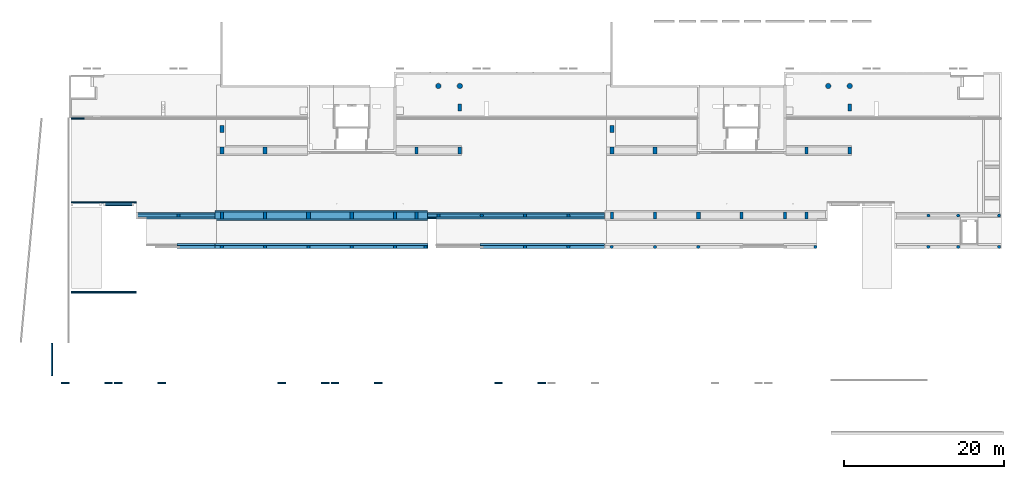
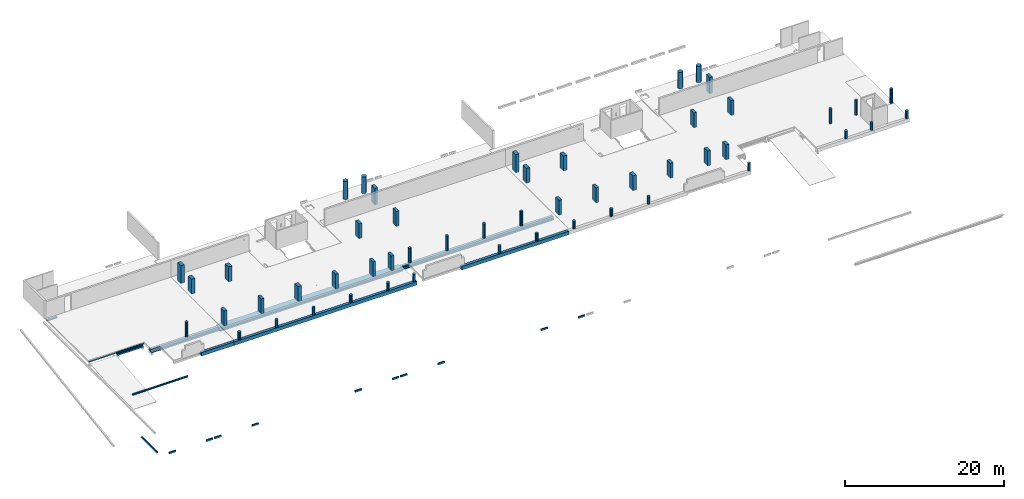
# One storey, part 1 of 10: 51 columns, 22 beams.
"""IFC2X3 building model written with IfcOpenShell, lengths in millimetres."""

from ifc_helpers import new_model, entity, si_unit, converted_unit, derived_unit, direction, frame, frame_2d, origin, origin_2d_with_axis, place, context, subcontext, project, spatial, polyline, circle_curve, parameter, trimmed, segment, composite_curve, rectangle, circle, outline, extrude, source, transform, mapped, material, type_object, type_shapes, element, save


model = new_model("IFC2X3")

# Units and contexts
model_context = context("Model", 3, precision=0.01, world=origin(), true_north=direction((6.12303176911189e-17, 1.0)))
body_context = subcontext(model_context, "Body", "Model", "MODEL_VIEW")
ifc_project = project(units=[si_unit("LENGTHUNIT", "METRE", prefix="MILLI"), si_unit("AREAUNIT", "SQUARE_METRE"), si_unit("VOLUMEUNIT", "CUBIC_METRE"), converted_unit("PLANEANGLEUNIT", "DEGREE", entity("IfcRatioMeasure", 0.0174532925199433), si_unit("PLANEANGLEUNIT", "RADIAN"), dimensions=[0, 0, 0, 0, 0, 0, 0]), si_unit("MASSUNIT", "GRAM", prefix="KILO"), derived_unit("MASSDENSITYUNIT", [(si_unit("MASSUNIT", "GRAM", prefix="KILO"), 1), (si_unit("LENGTHUNIT", "METRE"), -3)]), si_unit("TIMEUNIT", "SECOND"), si_unit("FREQUENCYUNIT", "HERTZ"), si_unit("THERMODYNAMICTEMPERATUREUNIT", "DEGREE_CELSIUS"), derived_unit("THERMALTRANSMITTANCEUNIT", [(si_unit("MASSUNIT", "GRAM", prefix="KILO"), 1), (si_unit("THERMODYNAMICTEMPERATUREUNIT", "KELVIN"), -1), (si_unit("TIMEUNIT", "SECOND"), -3)]), derived_unit("VOLUMETRICFLOWRATEUNIT", [(si_unit("LENGTHUNIT", "METRE"), 3), (si_unit("TIMEUNIT", "SECOND"), -1)]), si_unit("ELECTRICCURRENTUNIT", "AMPERE"), si_unit("ELECTRICVOLTAGEUNIT", "VOLT"), si_unit("POWERUNIT", "WATT"), si_unit("FORCEUNIT", "NEWTON", prefix="KILO"), si_unit("ILLUMINANCEUNIT", "LUX"), si_unit("LUMINOUSFLUXUNIT", "LUMEN"), si_unit("LUMINOUSINTENSITYUNIT", "CANDELA"), derived_unit("USERDEFINED", [(si_unit("MASSUNIT", "GRAM", prefix="KILO"), -1), (si_unit("LENGTHUNIT", "METRE"), -2), (si_unit("TIMEUNIT", "SECOND"), 3), (si_unit("LUMINOUSFLUXUNIT", "LUMEN"), 1)]), derived_unit("LINEARVELOCITYUNIT", [(si_unit("LENGTHUNIT", "METRE"), 1), (si_unit("TIMEUNIT", "SECOND"), -1)]), si_unit("PRESSUREUNIT", "PASCAL"), derived_unit("USERDEFINED", [(si_unit("LENGTHUNIT", "METRE"), -2), (si_unit("MASSUNIT", "GRAM", prefix="KILO"), 1), (si_unit("TIMEUNIT", "SECOND"), -2)])], contexts=[model_context])

# Site, building, storey
site_placement = place(None, origin())
site = spatial("IfcSite", under=ifc_project, at=site_placement, Name="Default", CompositionType="ELEMENT")
building_placement = place(site_placement, origin())
building = spatial("IfcBuilding", under=site, at=building_placement, Name="niet gebruiken", CompositionType="ELEMENT")
storey_placement = place(building_placement, frame((0.0, 0.0, 6610.0)))
storey = spatial("IfcBuildingStorey", under=building, at=storey_placement, Name="01c derde tussenverdieping", CompositionType="ELEMENT", Elevation=6610.0)

# Columns
ifc_material_1 = material(Name="NLRS_f2_beton prefab")
column_type_1 = type_object("IfcColumnType", Name="ø400", PredefinedType="COLUMN", material=ifc_material_1)
shared_shape_1 = source(origin(), body_context, "Body", "SweptSolid", [
    extrude(circle(Radius=200.0, at=frame_2d((1.69197988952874e-14, -3.02923644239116e-13), x_axis=(1.0, 0.0))), frame((0.0, 0.0, 6640.0)), (0.0, 0.0, 1.0), 1180.0),
])
type_shapes(column_type_1, [shared_shape_1])
for number, where in (
    (1, (27000.0, 24976.0, -6610.0)),
    (2, (32400.0, 24976.0, -6610.0)),
    (3, (37800.0, 24976.0, -6610.0)),
    (4, (43200.0, 24976.0, -6610.0)),
    (5, (48600.0, 24976.0, -6610.0)),
    (6, (52390.0, 24976.0, -6610.0)),
    (7, (64800.0, 24976.0, -6610.0)),
    (8, (70200.0, 24976.0, -6610.0)),
    (9, (75600.0, 24976.0, -6610.0)),
    (10, (81000.0, 24976.0, -6610.0)),
    (11, (86400.0, 24976.0, -6610.0)),
    (12, (100990.0, 24976.0, -6610.0)),
    (13, (118800.0, 24976.0, -6610.0)),
    (14, (115075.000813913, 24976.0, -6610.0)),
):
    element("IfcColumn", number, at=place(storey_placement, frame(where)), inside=storey, type_object=column_type_1, material=ifc_material_1, Name="NLRS_28. kolom rond_gen:ø400", ObjectType="ø400", context=body_context, shape_type="MappedRepresentation", body=[
        mapped(shared_shape_1, transform((0.0, 0.0, 0.0), scale=1.0)),
    ])
column_type_2 = type_object("IfcColumnType", Name="400x850", PredefinedType="COLUMN", material=ifc_material_1)
shared_shape_2 = source(origin(), body_context, "Body", "SweptSolid", [
    extrude(rectangle(XDim=850.0, YDim=400.0, at=origin_2d_with_axis()), frame((0.0, 0.0, 6560.0), z_axis=(0.0, 0.0, 1.0), x_axis=(0.0, -1.0, 0.0)), (0.0, 0.0, 1.0), 2299.99999999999),
])
type_shapes(column_type_2, [shared_shape_2])
for number, where, name in (
    (15, (32400.0, 28881.0, -6610.0), "NLRS_28. kolom vierkant_gen:400x850"),
    (16, (27025.0, 28881.0, -6610.0), "NLRS_28. kolom vierkant_gen:400x850"),
    (17, (43200.0, 28881.0, -6610.0), "NLRS_28. kolom vierkant_gen:400x850"),
    (18, (48600.0, 28881.0, -6610.0), "NLRS_28. kolom vierkant_gen:400x850"),
    (19, (51275.0, 28881.0, -6610.0), "NLRS_28. kolom vierkant_gen:400x850"),
    (20, (75625.0, 28881.0, -6610.0), "NLRS_28. kolom vierkant_gen:400x850"),
    (21, (81000.0, 28881.0, -6610.0), "NLRS_28. kolom vierkant_gen:400x850"),
    (22, (91800.0, 28881.0, -6610.0), "NLRS_28. kolom vierkant_gen:400x850"),
    (23, (97200.0, 28881.0, -6610.0), "NLRS_28. kolom vierkant_gen:400x850"),
    (24, (99875.0, 28881.0, -6610.0), "NLRS_28. kolom vierkant_gen:400x850"),
):
    element("IfcColumn", number, at=place(storey_placement, frame(where)), inside=storey, type_object=column_type_2, material=ifc_material_1, Name=name, ObjectType="400x850", context=body_context, shape_type="MappedRepresentation", body=[
        mapped(shared_shape_2, transform((0.0, 0.0, 0.0), scale=1.0)),
    ])
for number, where, z_axis, x_axis, name in (
    (25, (51275.0, 36981.0, -6610.0), (0.0, 0.0, 1.0), (-1.0, 0.0, 0.0), "NLRS_28. kolom vierkant_gen:400x850"),
    (26, (56675.0, 36981.0, -6610.0), (0.0, 0.0, 1.0), (-1.0, 0.0, 0.0), "NLRS_28. kolom vierkant_gen:400x850"),
    (27, (99875.0, 36981.0, -6610.0), (0.0, 0.0, 1.0), (-1.0, 0.0, 0.0), "NLRS_28. kolom vierkant_gen:400x850"),
    (28, (105275.0, 36981.0, -6610.0), (0.0, 0.0, 1.0), (-1.0, 0.0, 0.0), "NLRS_28. kolom vierkant_gen:400x850"),
):
    element("IfcColumn", number, at=place(storey_placement, frame(where, z_axis=z_axis, x_axis=x_axis)), inside=storey, type_object=column_type_2, material=ifc_material_1, Name=name, ObjectType="400x850", context=body_context, shape_type="MappedRepresentation", body=[
        mapped(shared_shape_2, transform((0.0, 0.0, 0.0), scale=1.0)),
    ])
column_type_3 = type_object("IfcColumnType", Name="500x850", PredefinedType="COLUMN", material=ifc_material_1)
shared_shape_3 = source(origin(), body_context, "Body", "SweptSolid", [
    extrude(rectangle(XDim=850.0, YDim=500.0, at=origin_2d_with_axis()), frame((0.0, 0.0, 6560.0), z_axis=(0.0, 0.0, 1.0), x_axis=(0.0, -1.0, 0.0)), (0.0, 0.0, 1.0), 2299.99999999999),
])
type_shapes(column_type_3, [shared_shape_3])
for number, where, name in (
    (29, (37800.0, 28881.0, -6610.0), "NLRS_28. kolom vierkant_gen:500x850"),
    (30, (86400.0, 28881.0, -6610.0), "NLRS_28. kolom vierkant_gen:500x850"),
):
    element("IfcColumn", number, at=place(storey_placement, frame(where)), inside=storey, type_object=column_type_3, material=ifc_material_1, Name=name, ObjectType="500x850", context=body_context, shape_type="MappedRepresentation", body=[
        mapped(shared_shape_3, transform((0.0, 0.0, 0.0), scale=1.0)),
    ])
for number, where, z_axis, x_axis, name in (
    (31, (27025.0, 36981.0, -6610.0), (0.0, 0.0, 1.0), (-1.0, 0.0, 0.0), "NLRS_28. kolom vierkant_gen:500x850"),
    (32, (32400.0, 36981.0, -6610.0), (0.0, 0.0, 1.0), (-1.0, 0.0, 0.0), "NLRS_28. kolom vierkant_gen:500x850"),
    (33, (75625.0, 36981.0, -6610.0), (0.0, 0.0, 1.0), (-1.0, 0.0, 0.0), "NLRS_28. kolom vierkant_gen:500x850"),
    (34, (81000.0, 36981.0, -6610.0), (0.0, 0.0, 1.0), (-1.0, 0.0, 0.0), "NLRS_28. kolom vierkant_gen:500x850"),
):
    element("IfcColumn", number, at=place(storey_placement, frame(where, z_axis=z_axis, x_axis=x_axis)), inside=storey, type_object=column_type_3, material=ifc_material_1, Name=name, ObjectType="500x850", context=body_context, shape_type="MappedRepresentation", body=[
        mapped(shared_shape_3, transform((0.0, 0.0, 0.0), scale=1.0)),
    ])
column_type_4 = type_object("IfcColumnType", Name="ø400", PredefinedType="COLUMN", material=ifc_material_1)
shared_shape_4 = source(origin(), body_context, "Body", "SweptSolid", [
    extrude(circle(Radius=200.0, at=frame_2d((1.69197988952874e-14, -3.02923644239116e-13), x_axis=(1.0, 0.0))), frame((0.0, 0.0, 6560.0)), (0.0, 0.0, 1.0), 2299.99999999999),
])
type_shapes(column_type_4, [shared_shape_4])
for number, where in (
    (35, (21600.0, 28881.0, -6610.0)),
    (36, (54000.0, 28881.0, -6610.0)),
    (37, (59400.0, 28881.0, -6610.0)),
    (38, (64800.0, 28881.0, -6610.0)),
    (39, (70200.0, 28881.0, -6610.0)),
):
    element("IfcColumn", number, at=place(storey_placement, frame(where)), inside=storey, type_object=column_type_4, material=ifc_material_1, Name="NLRS_28. kolom rond_gen:ø400", ObjectType="ø400", context=body_context, shape_type="MappedRepresentation", body=[
        mapped(shared_shape_4, transform((0.0, 0.0, 0.0), scale=1.0)),
    ])
column_type_5 = type_object("IfcColumnType", Name="ø400", PredefinedType="COLUMN", material=ifc_material_1)
shared_shape_5 = source(origin(), body_context, "Body", "SweptSolid", [
    extrude(circle(Radius=200.000000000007, at=frame_2d((-3.75232390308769e-25, -8.66293703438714e-12), x_axis=(1.0, 0.0))), frame((118800.0, 28881.0, 6560.0)), (0.0, 0.0, 1.0), 2299.99999999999),
])
type_shapes(column_type_5, [shared_shape_5])
column_1_placement = place(storey_placement, frame((0.0, 0.0, -6610.0)))
element("IfcColumn", 40, at=column_1_placement, inside=storey, type_object=column_type_5, material=ifc_material_1, Name="NLRS_28. kolom rond_gen:ø400", ObjectType="ø400", context=body_context, shape_type="MappedRepresentation", body=[
    mapped(shared_shape_5, transform((0.0, 0.0, 0.0), scale=1.0)),
])
column_type_6 = type_object("IfcColumnType", Name="ø400", PredefinedType="COLUMN", material=ifc_material_1)
shared_shape_6 = source(origin(), body_context, "Body", "SweptSolid", [
    extrude(circle(Radius=200.000000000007, at=frame_2d((-3.75232390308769e-25, -8.66293703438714e-12), x_axis=(1.0, 0.0))), frame((115075.0, 28881.0, 6560.0)), (0.0, 0.0, 1.0), 2299.99999999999),
])
type_shapes(column_type_6, [shared_shape_6])
column_2_placement = place(storey_placement, frame((0.0, 0.0, -6610.0)))
element("IfcColumn", 41, at=column_2_placement, inside=storey, type_object=column_type_6, material=ifc_material_1, Name="NLRS_28. kolom rond_gen:ø400", ObjectType="ø400", context=body_context, shape_type="MappedRepresentation", body=[
    mapped(shared_shape_6, transform((0.0, 0.0, 0.0), scale=1.0)),
])
column_type_7 = type_object("IfcColumnType", Name="ø400", PredefinedType="COLUMN", material=ifc_material_1)
shared_shape_7 = source(origin(), body_context, "Body", "SweptSolid", [
    extrude(circle(Radius=200.000000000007, at=frame_2d((-3.75232390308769e-25, -8.66293703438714e-12), x_axis=(1.0, 0.0))), frame((123900.0, 28881.0, 6560.0)), (0.0, 0.0, 1.0), 2299.99999999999),
])
type_shapes(column_type_7, [shared_shape_7])
column_3_placement = place(storey_placement, frame((0.0, 0.0, -6610.0)))
element("IfcColumn", 42, at=column_3_placement, inside=storey, type_object=column_type_7, material=ifc_material_1, Name="NLRS_28. kolom rond_gen:ø400", ObjectType="ø400", context=body_context, shape_type="MappedRepresentation", body=[
    mapped(shared_shape_7, transform((0.0, 0.0, 0.0), scale=1.0)),
])
column_type_8 = type_object("IfcColumnType", Name="500x850", PredefinedType="COLUMN", material=ifc_material_1)
shared_shape_8 = source(origin(), body_context, "Body", "SweptSolid", [
    extrude(rectangle(XDim=850.0, YDim=500.0, at=origin_2d_with_axis()), frame((0.0, 0.0, 6560.0), z_axis=(0.0, 0.0, 1.0), x_axis=(0.0, -1.0, 0.0)), (0.0, 0.0, 1.0), 2780.0),
])
type_shapes(column_type_8, [shared_shape_8])
for number, where, z_axis, x_axis, name in (
    (43, (27025.0, 39656.0, -6610.0), (0.0, 0.0, 1.0), (-1.0, 0.0, 0.0), "NLRS_28. kolom vierkant_gen:500x850"),
    (44, (75625.0, 39656.0, -6610.0), (0.0, 0.0, 1.0), (-1.0, 0.0, 0.0), "NLRS_28. kolom vierkant_gen:500x850"),
):
    element("IfcColumn", number, at=place(storey_placement, frame(where, z_axis=z_axis, x_axis=x_axis)), inside=storey, type_object=column_type_8, material=ifc_material_1, Name=name, ObjectType="500x850", context=body_context, shape_type="MappedRepresentation", body=[
        mapped(shared_shape_8, transform((0.0, 0.0, 0.0), scale=1.0)),
    ])
column_type_9 = type_object("IfcColumnType", Name="400x850", PredefinedType="COLUMN", material=ifc_material_1)
shared_shape_9 = source(origin(), body_context, "Body", "SweptSolid", [
    extrude(rectangle(XDim=850.0, YDim=400.0, at=origin_2d_with_axis()), frame((0.0, 0.0, 6640.0), z_axis=(0.0, 0.0, 1.0), x_axis=(0.0, -1.0, 0.0)), (0.0, 0.0, 1.0), 2520.0),
])
type_shapes(column_type_9, [shared_shape_9])
for number, where, z_axis, x_axis, name in (
    (45, (105275.0, 42331.0, -6610.0), (0.0, 0.0, 1.0), (-1.0, 0.0, 0.0), "NLRS_28. kolom vierkant_gen:400x850"),
    (46, (56675.0, 42331.0, -6610.0), (0.0, 0.0, 1.0), (-1.0, 0.0, 0.0), "NLRS_28. kolom vierkant_gen:400x850"),
):
    element("IfcColumn", number, at=place(storey_placement, frame(where, z_axis=z_axis, x_axis=x_axis)), inside=storey, type_object=column_type_9, material=ifc_material_1, Name=name, ObjectType="400x850", context=body_context, shape_type="MappedRepresentation", body=[
        mapped(shared_shape_9, transform((0.0, 0.0, 0.0), scale=1.0)),
    ])
column_type_10 = type_object("IfcColumnType", Name="ø650", PredefinedType="COLUMN", material=ifc_material_1)
shared_shape_10 = source(origin(), body_context, "Body", "SweptSolid", [
    extrude(circle(Radius=325.0, at=frame_2d((3.38395977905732e-14, 4.90135947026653e-13), x_axis=(1.0, 0.0))), frame((0.0, 0.0, 6640.0), z_axis=(0.0, 0.0, 1.0), x_axis=(-1.0, 0.0, 0.0)), (0.0, 0.0, 1.0), 2520.0),
])
type_shapes(column_type_10, [shared_shape_10])
for number, where in (
    (47, (105275.0, 45031.0, -6610.0)),
    (48, (102600.0, 45031.0, -6610.0)),
    (49, (56675.0, 45031.0, -6610.0)),
):
    element("IfcColumn", number, at=place(storey_placement, frame(where)), inside=storey, type_object=column_type_10, material=ifc_material_1, Name="NLRS_28. kolom rond_gen:ø650", ObjectType="ø650", context=body_context, shape_type="MappedRepresentation", body=[
        mapped(shared_shape_10, transform((0.0, 0.0, 0.0), scale=1.0)),
    ])
column_type_11 = type_object("IfcColumnType", Name="ø650", PredefinedType="COLUMN", material=ifc_material_1)
shared_shape_11 = source(origin(), body_context, "Body", "SweptSolid", [
    extrude(circle(Radius=325.0, at=frame_2d((3.38395977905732e-14, 4.90135947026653e-13), x_axis=(1.0, 0.0))), frame((0.0, 0.0, 6630.0), z_axis=(0.0, 0.0, 1.0), x_axis=(-1.0, 0.0, 0.0)), (0.0, 0.0, 1.0), 2780.0),
])
type_shapes(column_type_11, [shared_shape_11])
column_4_placement = place(storey_placement, frame((54000.0, 45031.0, -6610.0)))
element("IfcColumn", 50, at=column_4_placement, inside=storey, type_object=column_type_11, material=ifc_material_1, Name="NLRS_28. kolom rond_gen:ø650", ObjectType="ø650", context=body_context, shape_type="MappedRepresentation", body=[
    mapped(shared_shape_11, transform((0.0, 0.0, 0.0), scale=1.0)),
])
column_type_12 = type_object("IfcColumnType", Name="ø400", PredefinedType="COLUMN", material=ifc_material_1)
shared_shape_12 = source(origin(), body_context, "Body", "SweptSolid", [
    extrude(circle(Radius=200.000000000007, at=frame_2d((-3.75232390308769e-25, -8.66293703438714e-12), x_axis=(1.0, 0.0))), frame((123900.0, 24976.0, 6640.0)), (0.0, 0.0, 1.0), 1180.0),
])
type_shapes(column_type_12, [shared_shape_12])
column_5_placement = place(storey_placement, frame((0.0, 0.0, -6610.0)))
element("IfcColumn", 51, at=column_5_placement, inside=storey, type_object=column_type_12, material=ifc_material_1, Name="NLRS_28. kolom rond_gen:ø400", ObjectType="ø400", context=body_context, shape_type="MappedRepresentation", body=[
    mapped(shared_shape_12, transform((0.0, 0.0, 0.0), scale=1.0)),
])

# Beams
beam_type_1 = type_object("IfcBeamType", Name="NLRS_28.11_SF_WPB_prefabbeton balk enkele sponning_gen:600x540/200x200", PredefinedType="BEAM")
beam_1_placement = place(storey_placement, frame((26150.0, 25076.0, 10.0)))
element("IfcBeam", 52, at=beam_1_placement, inside=storey, type_object=beam_type_1, material=ifc_material_1, Name="NLRS_28.11_SF_WPB_prefabbeton balk enkele sponning_gen:600x540/200x200", ObjectType="NLRS_28.11_SF_WPB_prefabbeton balk enkele sponning_gen:600x540/200x200", context=body_context, shape_type="SweptSolid", body=[
    extrude(outline(polyline([(-293.333333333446, -333.333333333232), (246.666666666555, -333.333333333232), (246.666666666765, 266.666666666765), (46.6666666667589, 266.666666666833), (46.6666666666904, 66.666666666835), (-293.333333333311, 66.6666666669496), (-293.333333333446, -333.333333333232)])), frame((0.0, 33.3333333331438, -293.333333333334), z_axis=(1.0, 0.0, 0.0), x_axis=(0.0, 0.0, -1.0)), (0.0, 0.0, 1.0), 26549.9999999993),
])
beam_2_placement = place(storey_placement, frame((59200.0, 25076.0, 10.0)))
element("IfcBeam", 53, at=beam_2_placement, inside=storey, type_object=beam_type_1, material=ifc_material_1, Name="NLRS_28.11_SF_WPB_prefabbeton balk enkele sponning_gen:600x540/200x200", ObjectType="NLRS_28.11_SF_WPB_prefabbeton balk enkele sponning_gen:600x540/200x200", context=body_context, shape_type="SweptSolid", body=[
    extrude(outline(polyline([(-293.333333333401, -333.333333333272), (246.6666666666, -333.333333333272), (246.666666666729, 266.66666666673), (46.6666666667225, 266.666666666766), (46.6666666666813, 66.6666666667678), (-293.33333333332, 66.666666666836), (-293.333333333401, -333.333333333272)])), frame((0.0, 33.3333333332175, -293.333333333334), z_axis=(1.0, 0.0, 0.0), x_axis=(0.0, 0.0, -1.0)), (0.0, 0.0, 1.0), 15530.0000000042),
])
beam_3_placement = place(storey_placement, frame((21400.0, 25076.0, 10.0)))
element("IfcBeam", 54, at=beam_3_placement, inside=storey, type_object=beam_type_1, material=ifc_material_1, Name="NLRS_28.11_SF_WPB_prefabbeton balk enkele sponning_gen:600x540/200x200", ObjectType="NLRS_28.11_SF_WPB_prefabbeton balk enkele sponning_gen:600x540/200x200", context=body_context, shape_type="SweptSolid", body=[
    extrude(outline(polyline([(-293.333333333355, -333.333333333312), (246.666666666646, -333.333333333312), (246.666666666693, 266.666666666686), (46.6666666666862, 266.666666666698), (46.6666666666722, 66.6666666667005), (-293.33333333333, 66.6666666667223), (-293.333333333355, -333.333333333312)])), frame((0.0, 33.3333333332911, -293.333333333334), z_axis=(1.0, 0.0, 0.0), x_axis=(0.0, 0.0, -1.0)), (0.0, 0.0, 1.0), 4730.00000000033),
])
beam_type_2 = type_object("IfcBeamType", Name="NLRS_28.11_SF_WPB_prefabbeton balk dubbele sponning_gen:800x460/200x260/200x260", PredefinedType="BEAM")
beam_4_placement = place(storey_placement, frame((52660.0, 28881.0, -70.0)))
element("IfcBeam", 55, at=beam_4_placement, inside=storey, type_object=beam_type_2, material=ifc_material_1, Name="NLRS_28.11_SF_WPB_prefabbeton balk dubbele sponning_gen:800x460/200x260/200x260", ObjectType="NLRS_28.11_SF_WPB_prefabbeton balk dubbele sponning_gen:800x460/200x260/200x260", context=body_context, shape_type="SweptSolid", body=[
    extrude(outline(polyline([(15.0, -400.0), (215.0, -400.0), (215.0, 400.0), (15.0, 400.0), (15.0, 200.0), (-245.0, 200.0), (-245.0, -200.0), (15.0, -200.0), (15.0, -400.0)])), frame((0.0, 0.0, -245.0), z_axis=(1.0, 0.0, 0.0), x_axis=(0.0, 0.0, -1.0)), (0.0, 0.0, 1.0), 22069.9999999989),
])
beam_5_placement = place(storey_placement, frame((16345.0, 28881.0, -70.0)))
element("IfcBeam", 56, at=beam_5_placement, inside=storey, type_object=beam_type_2, material=ifc_material_1, Name="NLRS_28.11_SF_WPB_prefabbeton balk dubbele sponning_gen:800x460/200x260/200x260", ObjectType="NLRS_28.11_SF_WPB_prefabbeton balk dubbele sponning_gen:800x460/200x260/200x260", context=body_context, shape_type="SweptSolid", body=[
    extrude(outline(polyline([(15.0, -400.0), (215.0, -400.0), (215.0, 400.0), (15.0, 400.0), (15.0, 200.0), (-245.0, 200.0), (-245.0, -200.0), (15.0, -200.0), (15.0, -400.0)])), frame((0.0, 0.0, -245.0), z_axis=(1.0, 0.0, 0.0), x_axis=(0.0, 0.0, -1.0)), (0.0, 0.0, 1.0), 9785.00000000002),
])
beam_type_3 = type_object("IfcBeamType", Name="NLRS_28.11_SF_WPB_prefabbeton balk dubbele sponning_gen:1250x460/200x260/200x260", PredefinedType="BEAM")
beam_6_placement = place(storey_placement, frame((26150.0, 28881.0, -70.0)))
element("IfcBeam", 57, at=beam_6_placement, inside=storey, type_object=beam_type_3, material=ifc_material_1, Name="NLRS_28.11_SF_WPB_prefabbeton balk dubbele sponning_gen:1250x460/200x260/200x260", ObjectType="NLRS_28.11_SF_WPB_prefabbeton balk dubbele sponning_gen:1250x460/200x260/200x260", context=body_context, shape_type="SweptSolid", body=[
    extrude(outline(polyline([(15.0, -625.0), (215.0, -625.0), (215.0, 625.0), (15.0, 625.0), (15.0, 425.0), (-245.0, 425.0), (-245.0, -425.0), (15.0, -425.0), (15.0, -625.0)])), frame((0.0, 0.0, -245.0), z_axis=(1.0, 0.0, 0.0), x_axis=(0.0, 0.0, -1.0)), (0.0, 0.0, 1.0), 26490.0000000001),
])
ifc_material_2 = material(Name="NLRS_h2_staal")
beam_type_4 = type_object("IfcBeamType", Name="NLRS_28.11_SF_WPB_stalen ligger hoekprofiel gelijkzijdig_gen:ligger gelijzijdig hoekprofiel LEQU_200x200x15", PredefinedType="BEAM")
beam_7_placement = place(storey_placement, frame((8245.0, 40968.5000000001, -145.0)))
element("IfcBeam", 58, at=beam_7_placement, inside=storey, type_object=beam_type_4, material=ifc_material_2, Name="NLRS_28.11_SF_WPB_stalen ligger hoekprofiel gelijkzijdig_gen:ligger gelijzijdig hoekprofiel LEQU_200x200x15", ObjectType="NLRS_28.11_SF_WPB_stalen ligger hoekprofiel gelijkzijdig_gen:ligger gelijzijdig hoekprofiel LEQU_200x200x15", context=body_context, shape_type="SweptSolid", body=[
    extrude(outline(composite_curve([segment(polyline([(66.3333333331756, -126.666666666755), (73.3333333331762, -126.666666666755)]), True, "CONTINUOUS"), segment(polyline([(73.3333333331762, -126.666666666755), (73.3333333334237, 73.3333333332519)]), True, "CONTINUOUS"), segment(polyline([(73.3333333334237, 73.3333333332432), (-126.666666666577, 73.3333333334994)]), True, "CONTINUOUS"), segment(polyline([(-126.666666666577, 73.3333333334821), (-126.666666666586, 66.3333333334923)]), True, "CONTINUOUS"), segment(trimmed(circle_curve(frame_2d((-118.666666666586, 66.3333333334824), x_axis=(-1.0, 0.0)), 7.99999999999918), [parameter(0.0)], [parameter(90.0000000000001)], True, "PARAMETER"), True, "CONTINUOUS"), segment(polyline([(-118.666666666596, 58.3333333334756), (42.3333333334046, 58.333333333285)]), True, "CONTINUOUS"), segment(trimmed(circle_curve(frame_2d((42.333333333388, 42.3333333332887), x_axis=(0.0, 1.0)), 15.9999999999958), [parameter(269.999999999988)], [parameter(0.0)], True, "PARAMETER"), False, "CONTINUOUS"), segment(polyline([(58.3333333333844, 42.3333333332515), (58.3333333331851, -118.666666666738)]), True, "CONTINUOUS"), segment(trimmed(circle_curve(frame_2d((66.3333333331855, -118.666666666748), x_axis=(-1.0, 0.0)), 7.99999999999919), [parameter(0.0)], [parameter(90.0000000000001)], True, "PARAMETER"), True, "CONTINUOUS")], self_intersect=False)), frame((0.0, 19.1666666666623, -126.666666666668), z_axis=(1.0, 0.0, 0.0), x_axis=(0.0, 0.0, -1.0)), (0.0, 0.0, 1.0), 1604.99999999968),
])
beam_8_placement = place(storey_placement, frame((8245.0, 30626.0, -252.500000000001)))
element("IfcBeam", 59, at=beam_8_placement, inside=storey, type_object=beam_type_4, material=ifc_material_2, Name="NLRS_28.11_SF_WPB_stalen ligger hoekprofiel gelijkzijdig_gen:ligger gelijzijdig hoekprofiel LEQU_200x200x15", ObjectType="NLRS_28.11_SF_WPB_stalen ligger hoekprofiel gelijkzijdig_gen:ligger gelijzijdig hoekprofiel LEQU_200x200x15", context=body_context, shape_type="SweptSolid", body=[
    extrude(outline(composite_curve([segment(polyline([(-126.666666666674, -73.3333333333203), (73.333333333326, -73.3333333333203)]), True, "CONTINUOUS"), segment(polyline([(73.333333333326, -73.3333333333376), (73.3333333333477, 126.666666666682)]), True, "CONTINUOUS"), segment(polyline([(73.3333333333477, 126.66666666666), (66.3333333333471, 126.666666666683)]), True, "CONTINUOUS"), segment(trimmed(circle_curve(frame_2d((66.3333333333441, 118.66666666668), x_axis=(0.0, 1.0)), 7.99999999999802), [parameter(0.0)], [parameter(90.0000000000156)], True, "PARAMETER"), True, "CONTINUOUS"), segment(polyline([(58.3333333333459, 118.666666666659), (58.3333333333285, -42.333333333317)]), True, "CONTINUOUS"), segment(trimmed(circle_curve(frame_2d((42.3333333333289, -42.3333333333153), x_axis=(1.0, 0.0)), 16.0000000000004), [parameter(270.0)], [parameter(0.0)], True, "PARAMETER"), False, "CONTINUOUS"), segment(polyline([(42.3333333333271, -58.3333333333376), (-118.666666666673, -58.3333333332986)]), True, "CONTINUOUS"), segment(trimmed(circle_curve(frame_2d((-118.666666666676, -66.3333333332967), x_axis=(0.0, 1.0)), 7.99999999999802), [parameter(0.0)], [parameter(90.0000000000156)], True, "PARAMETER"), True, "CONTINUOUS"), segment(polyline([(-126.666666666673, -66.3333333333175), (-126.666666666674, -73.3333333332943)]), True, "CONTINUOUS")], self_intersect=False)), frame((0.0, -126.666666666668, -19.1666666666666), z_axis=(1.0, 0.0, 0.0), x_axis=(0.0, 0.0, -1.0)), (0.0, 0.0, 1.0), 8080.00000000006),
])
beam_9_placement = place(storey_placement, frame((8245.0, 19226.0, 1507.5)))
element("IfcBeam", 60, at=beam_9_placement, inside=storey, type_object=beam_type_4, material=ifc_material_2, Name="NLRS_28.11_SF_WPB_stalen ligger hoekprofiel gelijkzijdig_gen:ligger gelijzijdig hoekprofiel LEQU_200x200x15", ObjectType="NLRS_28.11_SF_WPB_stalen ligger hoekprofiel gelijkzijdig_gen:ligger gelijzijdig hoekprofiel LEQU_200x200x15", context=body_context, shape_type="SweptSolid", body=[
    extrude(outline(composite_curve([segment(polyline([(66.3333333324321, -126.666666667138), (73.3333333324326, -126.666666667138)]), True, "CONTINUOUS"), segment(polyline([(73.3333333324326, -126.666666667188), (73.3333333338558, 73.3333333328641)]), True, "CONTINUOUS"), segment(polyline([(73.3333333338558, 73.3333333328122), (-126.666666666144, 73.3333333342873)]), True, "CONTINUOUS"), segment(polyline([(-126.666666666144, 73.3333333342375), (-126.666666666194, 66.3333333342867)]), True, "CONTINUOUS"), segment(trimmed(circle_curve(frame_2d((-118.666666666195, 66.3333333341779), x_axis=(-1.0, 0.0)), 8.00000000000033), [parameter(0.0)], [parameter(90.0000000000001)], True, "PARAMETER"), True, "CONTINUOUS"), segment(polyline([(-118.666666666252, 58.3333333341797), (42.3333333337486, 58.3333333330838)]), True, "CONTINUOUS"), segment(trimmed(circle_curve(frame_2d((42.3333333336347, 42.3333333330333), x_axis=(0.0, 1.0)), 15.9999999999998), [parameter(270.0)], [parameter(0.0)], True, "PARAMETER"), False, "CONTINUOUS"), segment(polyline([(58.3333333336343, 42.3333333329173), (58.3333333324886, -118.666666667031)]), True, "CONTINUOUS"), segment(trimmed(circle_curve(frame_2d((66.333333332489, -118.666666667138), x_axis=(-1.0, 0.0)), 8.00000000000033), [parameter(0.0)], [parameter(90.0000000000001)], True, "PARAMETER"), True, "CONTINUOUS")], self_intersect=False)), frame((0.0, 126.666666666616, -19.1666666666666), z_axis=(1.0, 0.0, 0.0), x_axis=(0.0, 0.0, -1.0)), (0.0, 0.0, 1.0), 8080.00000000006),
])
ifc_material_3 = material(Name="NLRS_f2_beton ihwg")
beam_type_5 = type_object("IfcBeamType", Name="NLRS_28.11_SF_WPB_betonbalk ihwg recht_gen:180x250", PredefinedType="BEAM")
for number, where, name in (
    (61, (66405.0, 8006.0, -40.0), "NLRS_28.11_SF_WPB_betonbalk ihwg recht_gen:180x250"),
    (62, (61005.0, 8006.0, -40.0), "NLRS_28.11_SF_WPB_betonbalk ihwg recht_gen:180x250"),
    (63, (46025.0, 8006.0, -40.0), "NLRS_28.11_SF_WPB_betonbalk ihwg recht_gen:180x250"),
    (64, (40625.0, 8006.0, -40.0), "NLRS_28.11_SF_WPB_betonbalk ihwg recht_gen:180x250"),
    (65, (39405.0, 8006.0, -40.0), "NLRS_28.11_SF_WPB_betonbalk ihwg recht_gen:180x250"),
):
    element("IfcBeam", number, at=place(storey_placement, frame(where)), inside=storey, type_object=beam_type_5, material=ifc_material_3, Name=name, ObjectType="NLRS_28.11_SF_WPB_betonbalk ihwg recht_gen:180x250", context=body_context, shape_type="SweptSolid", body=[
        extrude(rectangle(XDim=249.999999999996, YDim=180.0, at=frame_2d((-5.40012479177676e-13, 0.0), x_axis=(1.0, 0.0))), frame((0.0, 0.0, -125.0), z_axis=(1.0, 0.0, 0.0), x_axis=(0.0, 0.0, -1.0)), (0.0, 0.0, 1.0), 970.000000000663),
    ])
beam_10_placement = place(storey_placement, frame((34005.0, 8006.0, -40.0)))
element("IfcBeam", 66, at=beam_10_placement, inside=storey, type_object=beam_type_5, material=ifc_material_3, Name="NLRS_28.11_SF_WPB_betonbalk ihwg recht_gen:180x250", ObjectType="NLRS_28.11_SF_WPB_betonbalk ihwg recht_gen:180x250", context=body_context, shape_type="SweptSolid", body=[
    extrude(rectangle(XDim=249.999999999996, YDim=180.0, at=frame_2d((-5.40012479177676e-13, 0.0), x_axis=(1.0, 0.0))), frame((0.0, 0.0, -125.0), z_axis=(1.0, 0.0, 0.0), x_axis=(0.0, 0.0, -1.0)), (0.0, 0.0, 1.0), 970.000000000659),
])
beam_11_placement = place(storey_placement, frame((19025.0, 8006.0, -40.0)))
element("IfcBeam", 67, at=beam_11_placement, inside=storey, type_object=beam_type_5, material=ifc_material_3, Name="NLRS_28.11_SF_WPB_betonbalk ihwg recht_gen:180x250", ObjectType="NLRS_28.11_SF_WPB_betonbalk ihwg recht_gen:180x250", context=body_context, shape_type="SweptSolid", body=[
    extrude(rectangle(XDim=249.999999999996, YDim=180.0, at=frame_2d((-5.40012479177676e-13, 0.0), x_axis=(1.0, 0.0))), frame((0.0, 0.0, -125.0), z_axis=(1.0, 0.0, 0.0), x_axis=(0.0, 0.0, -1.0)), (0.0, 0.0, 1.0), 970.000000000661),
])
for number, where, name in (
    (68, (13625.0, 8006.0, -40.0), "NLRS_28.11_SF_WPB_betonbalk ihwg recht_gen:180x250"),
    (69, (12405.0, 8006.0, -40.0), "NLRS_28.11_SF_WPB_betonbalk ihwg recht_gen:180x250"),
    (70, (7005.0, 8006.0, -40.0), "NLRS_28.11_SF_WPB_betonbalk ihwg recht_gen:180x250"),
):
    element("IfcBeam", number, at=place(storey_placement, frame(where)), inside=storey, type_object=beam_type_5, material=ifc_material_3, Name=name, ObjectType="NLRS_28.11_SF_WPB_betonbalk ihwg recht_gen:180x250", context=body_context, shape_type="SweptSolid", body=[
        extrude(rectangle(XDim=249.999999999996, YDim=180.0, at=frame_2d((-5.40012479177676e-13, 0.0), x_axis=(1.0, 0.0))), frame((0.0, 0.0, -125.0), z_axis=(1.0, 0.0, 0.0), x_axis=(0.0, 0.0, -1.0)), (0.0, 0.0, 1.0), 970.000000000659),
    ])
beam_type_6 = type_object("IfcBeamType", Name="NLRS_28.11_SF_WPB_stalen ligger hoekprofiel gelijkzijdig_gen:ligger gelijzijdig hoekprofiel LEQU_200x200x12", PredefinedType="BEAM")
beam_12_placement = place(storey_placement, frame((5832.5, 12986.0, -107.0), z_axis=(0.0, 0.0, 1.0), x_axis=(0.0, -1.0, 0.0)))
element("IfcBeam", 71, at=beam_12_placement, inside=storey, type_object=beam_type_6, material=ifc_material_2, Name="NLRS_28.11_SF_WPB_stalen ligger hoekprofiel gelijkzijdig_gen:ligger gelijzijdig hoekprofiel LEQU_200x200x12", ObjectType="NLRS_28.11_SF_WPB_stalen ligger hoekprofiel gelijkzijdig_gen:ligger gelijzijdig hoekprofiel LEQU_200x200x12", context=body_context, shape_type="SweptSolid", body=[
    extrude(outline(composite_curve([segment(polyline([(68.0, -128.0), (72.0, -128.0)]), True, "CONTINUOUS"), segment(polyline([(72.0, -128.0), (72.0, 72.0)]), True, "CONTINUOUS"), segment(polyline([(72.0, 72.0), (-128.0, 72.0)]), True, "CONTINUOUS"), segment(polyline([(-128.0, 72.0), (-128.0, 68.0)]), True, "CONTINUOUS"), segment(trimmed(circle_curve(frame_2d((-120.0, 68.0), x_axis=(-1.0, 0.0)), 8.00000000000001), [parameter(0.0)], [parameter(90.0000000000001)], True, "PARAMETER"), True, "CONTINUOUS"), segment(polyline([(-120.0, 60.0), (44.0, 60.0)]), True, "CONTINUOUS"), segment(trimmed(circle_curve(frame_2d((44.0, 44.0), x_axis=(0.0, 1.0)), 15.9999999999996), [parameter(270.0)], [parameter(0.0)], True, "PARAMETER"), False, "CONTINUOUS"), segment(polyline([(60.0, 44.0), (60.0, -120.0)]), True, "CONTINUOUS"), segment(trimmed(circle_curve(frame_2d((68.0, -120.0), x_axis=(-1.0, 0.0)), 8.00000000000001), [parameter(0.0)], [parameter(90.0000000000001)], True, "PARAMETER"), True, "CONTINUOUS")], self_intersect=False)), frame((0.0, 20.4999999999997, -128.0), z_axis=(1.0, 0.0, 0.0), x_axis=(0.0, 0.0, -1.0)), (0.0, 0.0, 1.0), 4100.0),
])
beam_type_7 = type_object("IfcBeamType", Name="NLRS_28.11_SF_WPB_prefabbeton balk recht_gen:200x140", PredefinedType="BEAM")
beam_13_placement = place(storey_placement, frame((52700.0, 28581.0, -190.0)))
element("IfcBeam", 72, at=beam_13_placement, inside=storey, type_object=beam_type_7, material=ifc_material_1, Name="NLRS_28.11_SF_WPB_prefabbeton balk recht_gen:200x140", ObjectType="NLRS_28.11_SF_WPB_prefabbeton balk recht_gen:200x140", context=body_context, shape_type="SweptSolid", body=[
    extrude(rectangle(XDim=140.000000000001, YDim=199.999999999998, at=frame_2d((5.40012479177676e-13, 8.66151594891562e-12), x_axis=(1.0, 0.0))), frame((0.0, 0.0, -70.0), z_axis=(1.0, 0.0, 0.0), x_axis=(0.0, 0.0, -1.0)), (0.0, 0.0, 1.0), 989.999999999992),
])
beam_type_8 = type_object("IfcBeamType", Name="NLRS_28.11_SF_WPB_prefabbeton balk enkele sponning_gen:380x370/180x150", PredefinedType="BEAM")
beam_14_placement = place(storey_placement, frame((12295.0, 30236.0, -80.0)))
element("IfcBeam", 73, at=beam_14_placement, inside=storey, type_object=beam_type_8, material=ifc_material_1, Name="NLRS_28.11_SF_WPB_prefabbeton balk enkele sponning_gen:380x370/180x150", ObjectType="NLRS_28.11_SF_WPB_prefabbeton balk enkele sponning_gen:380x370/180x150", context=body_context, shape_type="SweptSolid", body=[
    extrude(outline(polyline([(-23.3333333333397, -186.666666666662), (196.666666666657, -186.666666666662), (196.666666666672, 193.333333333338), (-173.333333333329, 193.333333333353), (-173.333333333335, -6.66666666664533), (-23.3333333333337, -6.66666666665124), (-23.3333333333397, -186.666666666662)])), frame((0.0, -3.33333333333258, -173.333333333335), z_axis=(1.0, 0.0, 0.0), x_axis=(0.0, 0.0, -1.0)), (0.0, 0.0, 1.0), 3759.99999999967),
])

save(model, "model.ifc")
